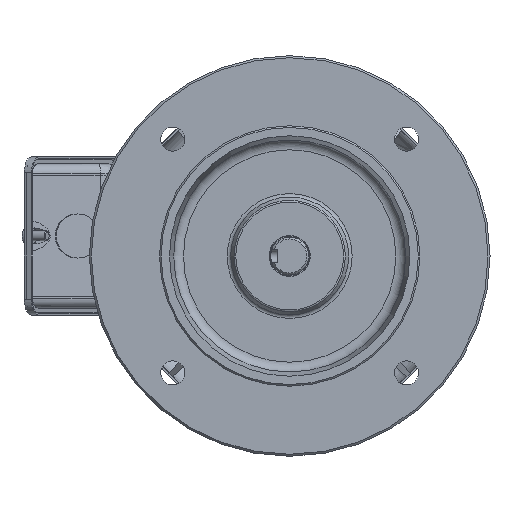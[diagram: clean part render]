
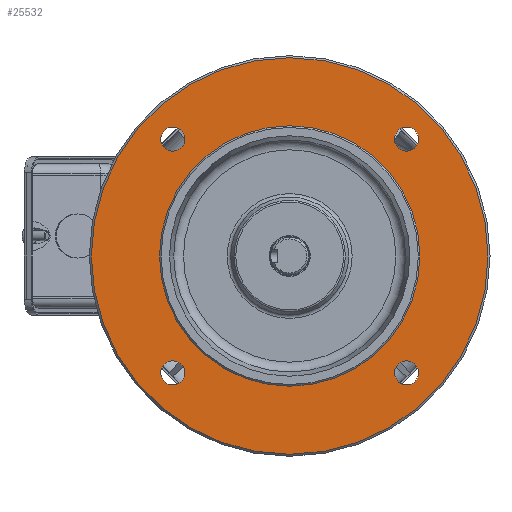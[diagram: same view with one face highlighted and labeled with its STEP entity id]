
A CAD part, front view. The second image highlights one B-rep face of the part: STEP entity #25532.
In plain terms, the highlighted planar face has unit normal (0, -1, 0).
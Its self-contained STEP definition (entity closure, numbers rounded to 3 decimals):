
#1993=CIRCLE('',#27336,65.);
#1994=CIRCLE('',#27338,99.);
#1995=CIRCLE('',#27339,6.);
#1996=CIRCLE('',#27340,6.);
#1997=CIRCLE('',#27341,6.);
#1998=CIRCLE('',#27342,6.);
#4370=ORIENTED_EDGE('',*,*,#10570,.T.);
#4371=ORIENTED_EDGE('',*,*,#10571,.F.);
#4372=ORIENTED_EDGE('',*,*,#10572,.F.);
#4373=ORIENTED_EDGE('',*,*,#10573,.F.);
#4374=ORIENTED_EDGE('',*,*,#10574,.F.);
#4375=ORIENTED_EDGE('',*,*,#10569,.F.);
#10569=EDGE_CURVE('',#13781,#13781,#1993,.T.);
#10570=EDGE_CURVE('',#13782,#13782,#1994,.T.);
#10571=EDGE_CURVE('',#13783,#13783,#1995,.T.);
#10572=EDGE_CURVE('',#13784,#13784,#1996,.T.);
#10573=EDGE_CURVE('',#13785,#13785,#1997,.T.);
#10574=EDGE_CURVE('',#13786,#13786,#1998,.T.);
#13781=VERTEX_POINT('',#40565);
#13782=VERTEX_POINT('',#40568);
#13783=VERTEX_POINT('',#40570);
#13784=VERTEX_POINT('',#40572);
#13785=VERTEX_POINT('',#40574);
#13786=VERTEX_POINT('',#40576);
#18504=EDGE_LOOP('',(#4370));
#18505=EDGE_LOOP('',(#4371));
#18506=EDGE_LOOP('',(#4372));
#18507=EDGE_LOOP('',(#4373));
#18508=EDGE_LOOP('',(#4374));
#18509=EDGE_LOOP('',(#4375));
#20331=FACE_BOUND('',#18504,.T.);
#20332=FACE_BOUND('',#18505,.T.);
#20333=FACE_BOUND('',#18506,.T.);
#20334=FACE_BOUND('',#18507,.T.);
#20335=FACE_BOUND('',#18508,.T.);
#20336=FACE_BOUND('',#18509,.T.);
#21923=PLANE('',#27337);
#25532=ADVANCED_FACE('',(#20331,#20332,#20333,#20334,#20335,#20336),#21923,
 .T.);
#27336=AXIS2_PLACEMENT_3D('',#40564,#31023,#31024);
#27337=AXIS2_PLACEMENT_3D('',#40566,#31025,#31026);
#27338=AXIS2_PLACEMENT_3D('',#40567,#31027,#31028);
#27339=AXIS2_PLACEMENT_3D('',#40569,#31029,#31030);
#27340=AXIS2_PLACEMENT_3D('',#40571,#31031,#31032);
#27341=AXIS2_PLACEMENT_3D('',#40573,#31033,#31034);
#27342=AXIS2_PLACEMENT_3D('',#40575,#31035,#31036);
#31023=DIRECTION('',(0.,-1.,0.));
#31024=DIRECTION('',(1.,0.,0.));
#31025=DIRECTION('',(0.,-1.,0.));
#31026=DIRECTION('',(1.,0.,0.));
#31027=DIRECTION('',(0.,-1.,0.));
#31028=DIRECTION('',(1.,0.,0.));
#31029=DIRECTION('',(0.,-1.,0.));
#31030=DIRECTION('',(0.,0.,1.));
#31031=DIRECTION('',(0.,-1.,0.));
#31032=DIRECTION('',(-1.,0.,0.));
#31033=DIRECTION('',(0.,-1.,0.));
#31034=DIRECTION('',(0.,0.,-1.));
#31035=DIRECTION('',(0.,-1.,0.));
#31036=DIRECTION('',(1.,0.,0.));
#40564=CARTESIAN_POINT('',(0.,3.5,0.));
#40565=CARTESIAN_POINT('',(65.,3.5,0.));
#40566=CARTESIAN_POINT('',(0.,3.5,65.));
#40567=CARTESIAN_POINT('',(0.,3.5,0.));
#40568=CARTESIAN_POINT('',(99.,3.5,0.));
#40569=CARTESIAN_POINT('',(-58.336,3.5,-58.336));
#40570=CARTESIAN_POINT('',(-58.336,3.5,-52.336));
#40571=CARTESIAN_POINT('',(58.336,3.5,-58.336));
#40572=CARTESIAN_POINT('',(52.336,3.5,-58.336));
#40573=CARTESIAN_POINT('',(58.336,3.5,58.336));
#40574=CARTESIAN_POINT('',(58.336,3.5,52.336));
#40575=CARTESIAN_POINT('',(-58.336,3.5,58.336));
#40576=CARTESIAN_POINT('',(-52.336,3.5,58.336));
